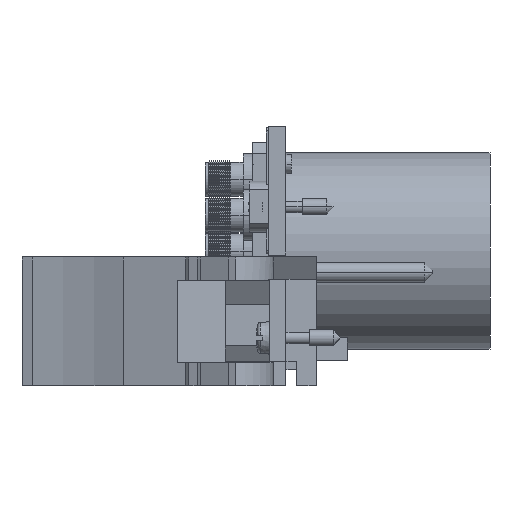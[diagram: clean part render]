
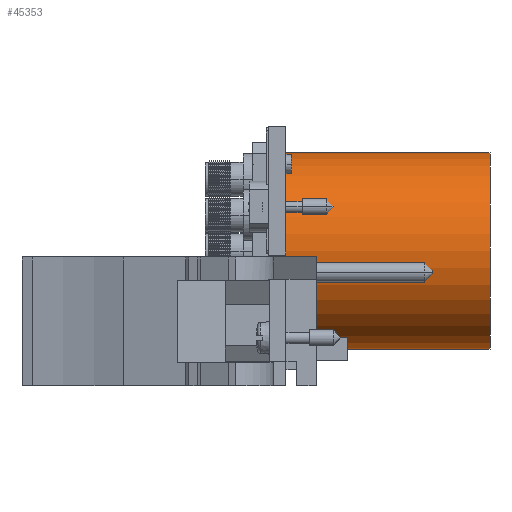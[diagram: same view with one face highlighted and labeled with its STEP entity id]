
A CAD part, front view. The second image highlights one B-rep face of the part: STEP entity #45353.
In plain terms, the highlighted cylindrical face has radius 15.24 mm (diameter 30.48 mm), a partial arc.
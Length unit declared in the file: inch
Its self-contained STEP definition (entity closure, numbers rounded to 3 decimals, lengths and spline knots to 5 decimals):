
#16008=CARTESIAN_POINT('',(-0.205,-2.91736,0.7325));
#16009=DIRECTION('',(1.,0.,0.));
#16010=DIRECTION('',(0.,0.,1.));
#16011=AXIS2_PLACEMENT_3D('',#16008,#16009,#16010);
#16022=DIRECTION('',(1.,0.,0.));
#16023=VECTOR('',#16022,1.352);
#16024=CARTESIAN_POINT('',(-0.205,-2.91736,0.1325));
#16025=LINE('',#16024,#16023);
#16026=DIRECTION('',(1.,0.,0.));
#16027=VECTOR('',#16026,1.352);
#16028=CARTESIAN_POINT('',(-0.205,-2.91736,1.3325));
#16029=LINE('',#16028,#16027);
#16035=CARTESIAN_POINT('',(1.147,-2.91736,0.7325));
#16036=DIRECTION('',(1.,0.,0.));
#16037=DIRECTION('',(0.,0.,1.));
#16038=AXIS2_PLACEMENT_3D('',#16035,#16036,#16037);
#18466=CARTESIAN_POINT('',(1.147,-2.91736,0.1325));
#18467=CARTESIAN_POINT('',(1.147,-2.91736,1.3325));
#18468=VERTEX_POINT('',#18466);
#18469=VERTEX_POINT('',#18467);
#18470=CARTESIAN_POINT('',(-0.205,-2.91736,0.1325));
#18471=CARTESIAN_POINT('',(-0.205,-2.91736,1.3325));
#18472=VERTEX_POINT('',#18470);
#18473=VERTEX_POINT('',#18471);
#45341=CARTESIAN_POINT('',(-0.205,-2.91736,0.7325));
#45342=DIRECTION('',(1.,0.,0.));
#45343=DIRECTION('',(0.,0.,-1.));
#45344=AXIS2_PLACEMENT_3D('',#45341,#45342,#45343);
#45345=CYLINDRICAL_SURFACE('',#45344,0.6);
#45346=ORIENTED_EDGE('',*,*,#45309,.F.);
#45347=ORIENTED_EDGE('',*,*,#45336,.T.);
#45349=ORIENTED_EDGE('',*,*,#45348,.T.);
#45350=ORIENTED_EDGE('',*,*,#45332,.F.);
#45351=EDGE_LOOP('',(#45346,#45347,#45349,#45350));
#45352=FACE_OUTER_BOUND('',#45351,.F.);
#45353=ADVANCED_FACE('',(#45352),#45345,.T.);
#16012=CIRCLE('',#16011,0.6);
#16039=CIRCLE('',#16038,0.6);
#45309=EDGE_CURVE('',#18473,#18472,#16012,.T.);
#45332=EDGE_CURVE('',#18472,#18468,#16025,.T.);
#45336=EDGE_CURVE('',#18473,#18469,#16029,.T.);
#45348=EDGE_CURVE('',#18469,#18468,#16039,.T.);
